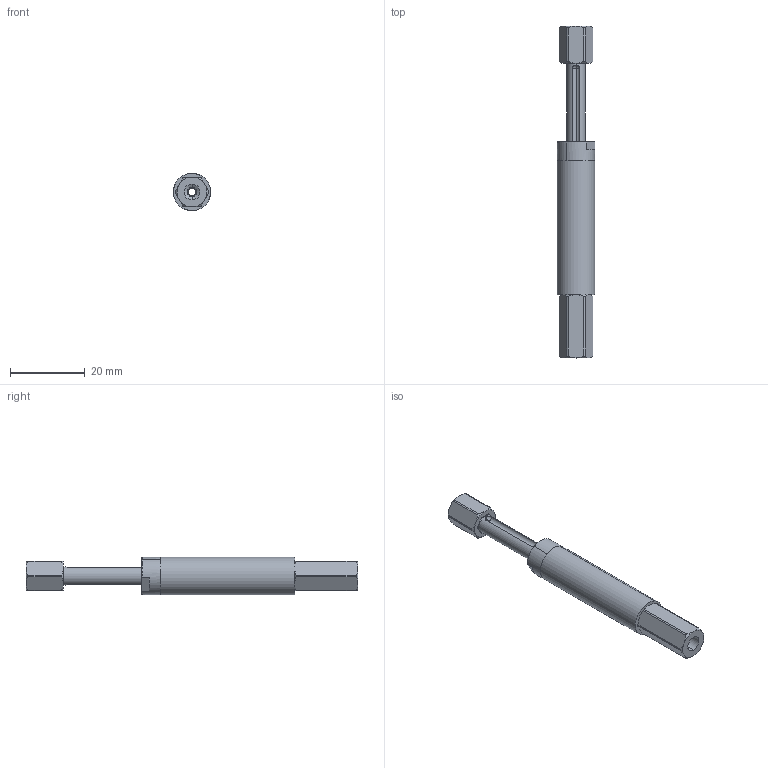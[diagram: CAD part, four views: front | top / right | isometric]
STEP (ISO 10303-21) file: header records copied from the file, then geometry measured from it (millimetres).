
FILE_DESCRIPTION (( 'STEP AP214' ), '1' );
FILE_NAME ('VFN1021-M5.STEP', '2019-12-03T01:58:04', ( '微软用户' ), ( '微软中国' ), 'SwSTEP 2.0', 'SolidWorks 2016', '' );
FILE_SCHEMA (( 'AUTOMOTIVE_DESIGN' ));
Length unit declared in the file: millimetre
Products named in the file (1): VFN1021-M5
Bounding box: 10 x 89 x 10 mm (x, y, z)
Volume: 4549.6 mm3; surface area: 5084.9 mm2
Topology: 4 solids, 4 shells, 230 faces, 516 edges, 303 vertices
Faces by surface type: cone 95, cylinder 86, plane 37, sphere 8, torus 4
Entity records: 9267 total; most frequent: CARTESIAN_POINT 1618, DIRECTION 1111, ORIENTED_EDGE 1032, EDGE_CURVE 516, AXIS2_PLACEMENT_3D 470, VERTEX_POINT 303, EDGE_LOOP 251, CIRCLE 239
